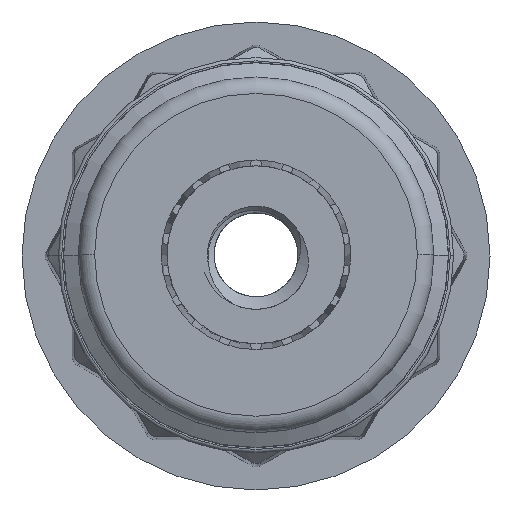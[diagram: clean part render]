
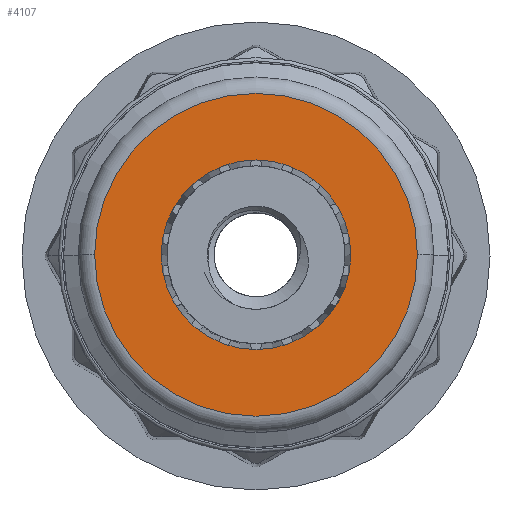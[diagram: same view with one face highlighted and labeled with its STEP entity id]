
A CAD part, top view. The second image highlights one B-rep face of the part: STEP entity #4107.
In plain terms, the highlighted planar face has unit normal (0, 0, 1).
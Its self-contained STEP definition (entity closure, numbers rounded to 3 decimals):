
#83 = EDGE_CURVE ( 'NONE', #1910, #8383, #6764, .T. ) ;
#242 = CARTESIAN_POINT ( 'NONE',  ( -4.9, 0., 24. ) ) ;
#254 = ORIENTED_EDGE ( 'NONE', *, *, #3287, .T. ) ;
#383 = EDGE_CURVE ( 'NONE', #958, #4898, #4488, .T. ) ;
#931 = CARTESIAN_POINT ( 'NONE',  ( 0., 5.4, 24. ) ) ;
#958 = VERTEX_POINT ( 'NONE', #2301 ) ;
#1445 = DIRECTION ( 'NONE',  ( 0., 0., 1. ) ) ;
#1591 = DIRECTION ( 'NONE',  ( -1., 0., 0. ) ) ;
#1910 = VERTEX_POINT ( 'NONE', #242 ) ;
#1942 = EDGE_LOOP ( 'NONE', ( #4165, #254 ) ) ;
#1950 = ORIENTED_EDGE ( 'NONE', *, *, #4028, .F. ) ;
#2017 = DIRECTION ( 'NONE',  ( -1., 0., 0. ) ) ;
#2268 = CARTESIAN_POINT ( 'NONE',  ( 4.9, 0., 24. ) ) ;
#2301 = CARTESIAN_POINT ( 'NONE',  ( -2.879, 0., 24. ) ) ;
#2936 = DIRECTION ( 'NONE',  ( 0., 0., -1. ) ) ;
#2971 = CARTESIAN_POINT ( 'NONE',  ( 0., 0., 24. ) ) ;
#3139 = FACE_BOUND ( 'NONE', #7393, .T. ) ;
#3287 = EDGE_CURVE ( 'NONE', #8383, #1910, #5133, .T. ) ;
#3330 = CARTESIAN_POINT ( 'NONE',  ( 0., 0., 24. ) ) ;
#3343 = DIRECTION ( 'NONE',  ( 0., 0., 1. ) ) ;
#3494 = AXIS2_PLACEMENT_3D ( 'NONE', #931, #2936, #1591 ) ;
#4016 = CARTESIAN_POINT ( 'NONE',  ( 0., 0., 24. ) ) ;
#4028 = EDGE_CURVE ( 'NONE', #4898, #958, #6388, .T. ) ;
#4107 = ADVANCED_FACE ( 'NONE', ( #6173, #3139 ), #5037, .F. ) ;
#4165 = ORIENTED_EDGE ( 'NONE', *, *, #83, .T. ) ;
#4343 = DIRECTION ( 'NONE',  ( -1., 0., 0. ) ) ;
#4488 = CIRCLE ( 'NONE', #5543, 2.879 ) ;
#4700 = DIRECTION ( 'NONE',  ( 0., 0., 1. ) ) ;
#4889 = AXIS2_PLACEMENT_3D ( 'NONE', #2971, #8490, #4343 ) ;
#4898 = VERTEX_POINT ( 'NONE', #8863 ) ;
#5037 = PLANE ( 'NONE',  #3494 ) ;
#5133 = CIRCLE ( 'NONE', #6671, 4.9 ) ;
#5543 = AXIS2_PLACEMENT_3D ( 'NONE', #3330, #4700, #6831 ) ;
#5553 = CARTESIAN_POINT ( 'NONE',  ( 0., 0., 24. ) ) ;
#6173 = FACE_OUTER_BOUND ( 'NONE', #1942, .T. ) ;
#6258 = DIRECTION ( 'NONE',  ( 1., 0., 0. ) ) ;
#6388 = CIRCLE ( 'NONE', #7583, 2.879 ) ;
#6671 = AXIS2_PLACEMENT_3D ( 'NONE', #4016, #3343, #2017 ) ;
#6764 = CIRCLE ( 'NONE', #4889, 4.9 ) ;
#6831 = DIRECTION ( 'NONE',  ( 1., 0., 0. ) ) ;
#7393 = EDGE_LOOP ( 'NONE', ( #1950, #8856 ) ) ;
#7583 = AXIS2_PLACEMENT_3D ( 'NONE', #5553, #1445, #6258 ) ;
#8383 = VERTEX_POINT ( 'NONE', #2268 ) ;
#8490 = DIRECTION ( 'NONE',  ( 0., 0., 1. ) ) ;
#8856 = ORIENTED_EDGE ( 'NONE', *, *, #383, .F. ) ;
#8863 = CARTESIAN_POINT ( 'NONE',  ( 2.879, 0., 24. ) ) ;
